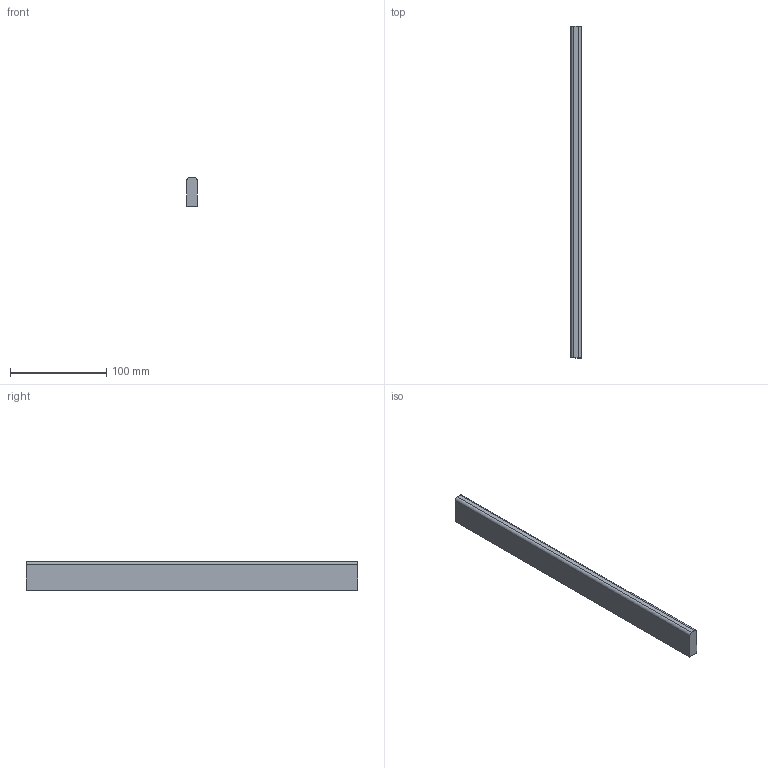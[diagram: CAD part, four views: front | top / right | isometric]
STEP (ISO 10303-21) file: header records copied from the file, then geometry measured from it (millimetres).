
FILE_DESCRIPTION (( 'STEP AP214' ), '1' );
FILE_NAME ('_Seitenreling_SP60700300_RL345.step', '2010-09-06T14:52:14', ( 'grass' ), ( '' ), 'SwSTEP 2.0', 'SolidWorks 2010', '' );
FILE_SCHEMA (( 'AUTOMOTIVE_DESIGN' ));
Length unit declared in the file: millimetre
Products named in the file (1): _Seitenreling_SP60700300_RL345
Bounding box: 10.5 x 345 x 30 mm (x, y, z)
Volume: 107342.3 mm3; surface area: 27678.8 mm2
Topology: 1 solids, 1 shells, 8 faces, 18 edges, 12 vertices
Faces by surface type: plane 6, cylinder 2
Entity records: 260 total; most frequent: DIRECTION 40, CARTESIAN_POINT 39, ORIENTED_EDGE 36, EDGE_CURVE 18, LINE 14, VECTOR 14, AXIS2_PLACEMENT_3D 13, VERTEX_POINT 12
